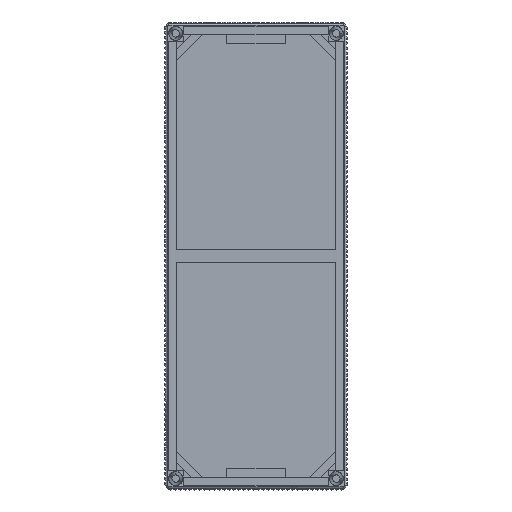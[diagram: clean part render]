
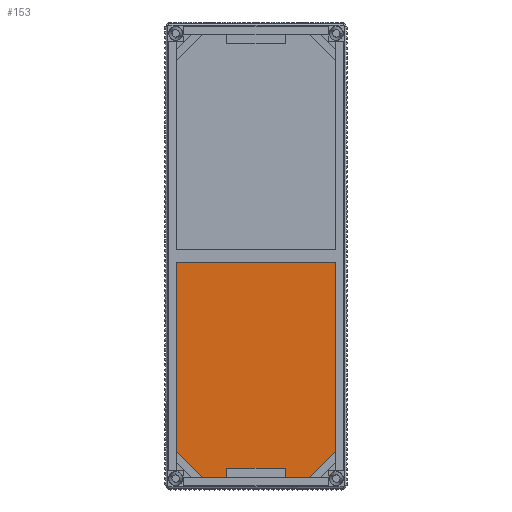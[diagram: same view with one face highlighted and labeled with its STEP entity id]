
A CAD part, front view. The second image highlights one B-rep face of the part: STEP entity #153.
In plain terms, the highlighted free-form (B-spline) face has degree [1, 1] with [2, 2] control points.
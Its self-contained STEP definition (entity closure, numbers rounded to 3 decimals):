
#153 = ADVANCED_FACE ( 'NONE', ( #14524 ), #29175, .F. ) ;
#854 = EDGE_CURVE ( 'NONE', #14392, #35047, #6313, .T. ) ;
#1165 = ORIENTED_EDGE ( 'NONE', *, *, #28732, .F. ) ;
#1306 = EDGE_LOOP ( 'NONE', ( #2073, #5571, #27228, #34567, #1165, #11692, #10445, #24628, #34144, #9567 ) ) ;
#2073 = ORIENTED_EDGE ( 'NONE', *, *, #17115, .F. ) ;
#2229 = CARTESIAN_POINT ( 'NONE',  ( 131.762, 400.05, -1125.538 ) ) ;
#2521 = CARTESIAN_POINT ( 'NONE',  ( 1.587, 400.05, -592.137 ) ) ;
#3063 = EDGE_CURVE ( 'NONE', #35047, #7982, #26463, .T. ) ;
#5571 = ORIENTED_EDGE ( 'NONE', *, *, #7684, .F. ) ;
#6161 = EDGE_CURVE ( 'NONE', #30598, #14450, #34095, .T. ) ;
#6313 = B_SPLINE_CURVE_WITH_KNOTS ( 'NONE', 1,
 ( #13292, #24425 ),
 .UNSPECIFIED., .F., .F.,
 ( 2, 2 ),
 ( 0., 1. ),
 .UNSPECIFIED. ) ;
#7291 = CARTESIAN_POINT ( 'NONE',  ( 1.587, 400.05, -1083.352 ) ) ;
#7522 = VERTEX_POINT ( 'NONE', #10000 ) ;
#7684 = EDGE_CURVE ( 'NONE', #14450, #26551, #16370, .T. ) ;
#7982 = VERTEX_POINT ( 'NONE', #15248 ) ;
#8491 = CARTESIAN_POINT ( 'NONE',  ( 414.338, 400.05, -592.137 ) ) ;
#9567 = ORIENTED_EDGE ( 'NONE', *, *, #33647, .T. ) ;
#9998 = EDGE_CURVE ( 'NONE', #21173, #30598, #27066, .T. ) ;
#10000 = CARTESIAN_POINT ( 'NONE',  ( 414.338, 400.05, -592.137 ) ) ;
#10445 = ORIENTED_EDGE ( 'NONE', *, *, #3063, .F. ) ;
#11654 = CARTESIAN_POINT ( 'NONE',  ( 69.173, 400.05, -1150.938 ) ) ;
#11692 = ORIENTED_EDGE ( 'NONE', *, *, #18788, .F. ) ;
#11730 = CARTESIAN_POINT ( 'NONE',  ( 1.587, 400.05, -1083.352 ) ) ;
#12177 = CARTESIAN_POINT ( 'NONE',  ( 1.587, 400.05, -592.137 ) ) ;
#12702 = EDGE_CURVE ( 'NONE', #7522, #14392, #22165, .T. ) ;
#13292 = CARTESIAN_POINT ( 'NONE',  ( 414.338, 400.05, -1083.352 ) ) ;
#14353 = CARTESIAN_POINT ( 'NONE',  ( 1.587, 400.05, -1150.938 ) ) ;
#14392 = VERTEX_POINT ( 'NONE', #35773 ) ;
#14450 = VERTEX_POINT ( 'NONE', #11654 ) ;
#14483 = CARTESIAN_POINT ( 'NONE',  ( 414.338, 400.05, -1083.352 ) ) ;
#14524 = FACE_OUTER_BOUND ( 'NONE', #1306, .T. ) ;
#15248 = CARTESIAN_POINT ( 'NONE',  ( 284.163, 400.05, -1150.938 ) ) ;
#15727 = CARTESIAN_POINT ( 'NONE',  ( 131.762, 400.05, -1150.938 ) ) ;
#16370 = B_SPLINE_CURVE_WITH_KNOTS ( 'NONE', 1,
 ( #29583, #7291 ),
 .UNSPECIFIED., .F., .F.,
 ( 2, 2 ),
 ( 0., 1. ),
 .UNSPECIFIED. ) ;
#17115 = EDGE_CURVE ( 'NONE', #26551, #25763, #34947, .T. ) ;
#17842 = B_SPLINE_CURVE_WITH_KNOTS ( 'NONE', 1,
 ( #31979, #34721 ),
 .UNSPECIFIED., .F., .F.,
 ( 2, 2 ),
 ( 0., 1. ),
 .UNSPECIFIED. ) ;
#17856 = CARTESIAN_POINT ( 'NONE',  ( 284.163, 400.05, -1150.938 ) ) ;
#18380 = CARTESIAN_POINT ( 'NONE',  ( 346.752, 400.05, -1150.938 ) ) ;
#18582 = CARTESIAN_POINT ( 'NONE',  ( 1.587, 400.05, -1083.352 ) ) ;
#18788 = EDGE_CURVE ( 'NONE', #7982, #33303, #24868, .T. ) ;
#19796 = CARTESIAN_POINT ( 'NONE',  ( 346.752, 400.05, -1150.938 ) ) ;
#21173 = VERTEX_POINT ( 'NONE', #2229 ) ;
#22165 = B_SPLINE_CURVE_WITH_KNOTS ( 'NONE', 1,
 ( #25430, #14483 ),
 .UNSPECIFIED., .F., .F.,
 ( 2, 2 ),
 ( 0., 0.91 ),
 .UNSPECIFIED. ) ;
#23601 = CARTESIAN_POINT ( 'NONE',  ( 69.173, 400.05, -1150.938 ) ) ;
#24425 = CARTESIAN_POINT ( 'NONE',  ( 346.752, 400.05, -1150.938 ) ) ;
#24628 = ORIENTED_EDGE ( 'NONE', *, *, #854, .F. ) ;
#24868 = B_SPLINE_CURVE_WITH_KNOTS ( 'NONE', 1,
 ( #17856, #26257 ),
 .UNSPECIFIED., .F., .F.,
 ( 2, 2 ),
 ( 0., 1. ),
 .UNSPECIFIED. ) ;
#25430 = CARTESIAN_POINT ( 'NONE',  ( 414.338, 400.05, -592.137 ) ) ;
#25763 = VERTEX_POINT ( 'NONE', #33966 ) ;
#26187 = CARTESIAN_POINT ( 'NONE',  ( 131.762, 400.05, -1150.938 ) ) ;
#26257 = CARTESIAN_POINT ( 'NONE',  ( 284.163, 400.05, -1125.538 ) ) ;
#26463 = B_SPLINE_CURVE_WITH_KNOTS ( 'NONE', 1,
 ( #18380, #29172 ),
 .UNSPECIFIED., .F., .F.,
 ( 2, 2 ),
 ( 0.13, 0.297 ),
 .UNSPECIFIED. ) ;
#26551 = VERTEX_POINT ( 'NONE', #11730 ) ;
#27066 = B_SPLINE_CURVE_WITH_KNOTS ( 'NONE', 1,
 ( #27067, #35097 ),
 .UNSPECIFIED., .F., .F.,
 ( 2, 2 ),
 ( 0., 1. ),
 .UNSPECIFIED. ) ;
#27067 = CARTESIAN_POINT ( 'NONE',  ( 131.762, 400.05, -1125.538 ) ) ;
#27228 = ORIENTED_EDGE ( 'NONE', *, *, #6161, .F. ) ;
#27855 = CARTESIAN_POINT ( 'NONE',  ( 414.338, 400.05, -1150.938 ) ) ;
#28309 = CARTESIAN_POINT ( 'NONE',  ( 284.163, 400.05, -1125.538 ) ) ;
#28386 = CARTESIAN_POINT ( 'NONE',  ( 1.587, 400.05, -592.137 ) ) ;
#28732 = EDGE_CURVE ( 'NONE', #33303, #21173, #17842, .T. ) ;
#29172 = CARTESIAN_POINT ( 'NONE',  ( 284.163, 400.05, -1150.938 ) ) ;
#29175 = B_SPLINE_SURFACE_WITH_KNOTS ( 'NONE', 1, 1, ( 
 ( #28386, #14353 ),
 ( #8491, #27855 ) ),
 .UNSPECIFIED., .F., .F., .F.,
 ( 2, 2 ),
 ( 2, 2 ),
 ( 0., 1. ),
 ( 0., 1. ),
 .UNSPECIFIED. ) ;
#29583 = CARTESIAN_POINT ( 'NONE',  ( 69.173, 400.05, -1150.938 ) ) ;
#30167 = B_SPLINE_CURVE_WITH_KNOTS ( 'NONE', 1,
 ( #33893, #12177 ),
 .UNSPECIFIED., .F., .F.,
 ( 2, 2 ),
 ( 0., 1. ),
 .UNSPECIFIED. ) ;
#30598 = VERTEX_POINT ( 'NONE', #26187 ) ;
#31979 = CARTESIAN_POINT ( 'NONE',  ( 284.163, 400.05, -1125.538 ) ) ;
#33303 = VERTEX_POINT ( 'NONE', #28309 ) ;
#33647 = EDGE_CURVE ( 'NONE', #7522, #25763, #30167, .T. ) ;
#33893 = CARTESIAN_POINT ( 'NONE',  ( 414.338, 400.05, -592.137 ) ) ;
#33966 = CARTESIAN_POINT ( 'NONE',  ( 1.587, 400.05, -592.137 ) ) ;
#34095 = B_SPLINE_CURVE_WITH_KNOTS ( 'NONE', 1,
 ( #15727, #23601 ),
 .UNSPECIFIED., .F., .F.,
 ( 2, 2 ),
 ( 0.703, 0.87 ),
 .UNSPECIFIED. ) ;
#34144 = ORIENTED_EDGE ( 'NONE', *, *, #12702, .F. ) ;
#34567 = ORIENTED_EDGE ( 'NONE', *, *, #9998, .F. ) ;
#34721 = CARTESIAN_POINT ( 'NONE',  ( 131.762, 400.05, -1125.538 ) ) ;
#34947 = B_SPLINE_CURVE_WITH_KNOTS ( 'NONE', 1,
 ( #18582, #2521 ),
 .UNSPECIFIED., .F., .F.,
 ( 2, 2 ),
 ( 0., 0.91 ),
 .UNSPECIFIED. ) ;
#35047 = VERTEX_POINT ( 'NONE', #19796 ) ;
#35097 = CARTESIAN_POINT ( 'NONE',  ( 131.762, 400.05, -1150.938 ) ) ;
#35773 = CARTESIAN_POINT ( 'NONE',  ( 414.338, 400.05, -1083.352 ) ) ;
